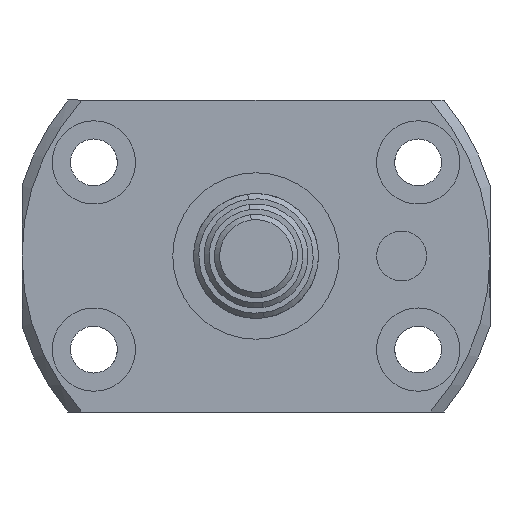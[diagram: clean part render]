
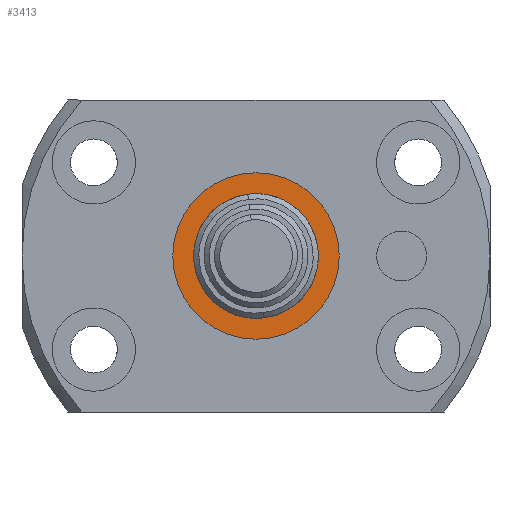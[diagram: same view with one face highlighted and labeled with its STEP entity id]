
A CAD part, left-side view. The second image highlights one B-rep face of the part: STEP entity #3413.
In plain terms, the highlighted planar face has unit normal (-1, 0, 0).
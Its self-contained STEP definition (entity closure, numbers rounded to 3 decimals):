
#117 = AXIS2_PLACEMENT_3D ( 'NONE', #3329, #1509, #3633 ) ;
#285 = DIRECTION ( 'NONE',  ( -1., 0., 0. ) ) ;
#317 = CARTESIAN_POINT ( 'NONE',  ( 5., 0., -8. ) ) ;
#352 = ORIENTED_EDGE ( 'NONE', *, *, #2367, .T. ) ;
#462 = VERTEX_POINT ( 'NONE', #317 ) ;
#526 = CARTESIAN_POINT ( 'NONE',  ( 5., 0., 0. ) ) ;
#751 = VERTEX_POINT ( 'NONE', #3767 ) ;
#825 = DIRECTION ( 'NONE',  ( 0., 0., 1. ) ) ;
#855 = AXIS2_PLACEMENT_3D ( 'NONE', #526, #2635, #825 ) ;
#1071 = CIRCLE ( 'NONE', #1393, 8. ) ;
#1393 = AXIS2_PLACEMENT_3D ( 'NONE', #3264, #1446, #3573 ) ;
#1446 = DIRECTION ( 'NONE',  ( -1., 0., 0. ) ) ;
#1447 = ORIENTED_EDGE ( 'NONE', *, *, #2788, .T. ) ;
#1475 = FACE_BOUND ( 'NONE', #1613, .T. ) ;
#1479 = CIRCLE ( 'NONE', #117, 8. ) ;
#1488 = ORIENTED_EDGE ( 'NONE', *, *, #2737, .T. ) ;
#1509 = DIRECTION ( 'NONE',  ( -1., 0., 0. ) ) ;
#1578 = CIRCLE ( 'NONE', #2820, 5. ) ;
#1613 = EDGE_LOOP ( 'NONE', ( #352, #1447 ) ) ;
#1771 = CARTESIAN_POINT ( 'NONE',  ( 5., 0., 0. ) ) ;
#1777 = PLANE ( 'NONE',  #3401 ) ;
#1898 = EDGE_LOOP ( 'NONE', ( #1488, #2071 ) ) ;
#1963 = VERTEX_POINT ( 'NONE', #3533 ) ;
#2071 = ORIENTED_EDGE ( 'NONE', *, *, #2836, .T. ) ;
#2077 = DIRECTION ( 'NONE',  ( 0., 0., 1. ) ) ;
#2367 = EDGE_CURVE ( 'NONE', #751, #1963, #3614, .T. ) ;
#2394 = DIRECTION ( 'NONE',  ( 0., 0., 1. ) ) ;
#2635 = DIRECTION ( 'NONE',  ( 1., 0., 0. ) ) ;
#2737 = EDGE_CURVE ( 'NONE', #3436, #462, #1071, .T. ) ;
#2788 = EDGE_CURVE ( 'NONE', #1963, #751, #1578, .T. ) ;
#2820 = AXIS2_PLACEMENT_3D ( 'NONE', #1771, #3894, #2077 ) ;
#2836 = EDGE_CURVE ( 'NONE', #462, #3436, #1479, .T. ) ;
#2992 = FACE_OUTER_BOUND ( 'NONE', #1898, .T. ) ;
#3264 = CARTESIAN_POINT ( 'NONE',  ( 5., 0., 0. ) ) ;
#3308 = CARTESIAN_POINT ( 'NONE',  ( 5., 0., 8. ) ) ;
#3329 = CARTESIAN_POINT ( 'NONE',  ( 5., 0., 0. ) ) ;
#3401 = AXIS2_PLACEMENT_3D ( 'NONE', #3901, #285, #2394 ) ;
#3413 = ADVANCED_FACE ( 'NONE', ( #2992, #1475 ), #1777, .T. ) ;
#3436 = VERTEX_POINT ( 'NONE', #3308 ) ;
#3533 = CARTESIAN_POINT ( 'NONE',  ( 5., 0., -5. ) ) ;
#3573 = DIRECTION ( 'NONE',  ( 0., 0., 1. ) ) ;
#3614 = CIRCLE ( 'NONE', #855, 5. ) ;
#3633 = DIRECTION ( 'NONE',  ( 0., 0., 1. ) ) ;
#3767 = CARTESIAN_POINT ( 'NONE',  ( 5., 0., 5. ) ) ;
#3894 = DIRECTION ( 'NONE',  ( 1., 0., 0. ) ) ;
#3901 = CARTESIAN_POINT ( 'NONE',  ( 5., 0., 0. ) ) ;
